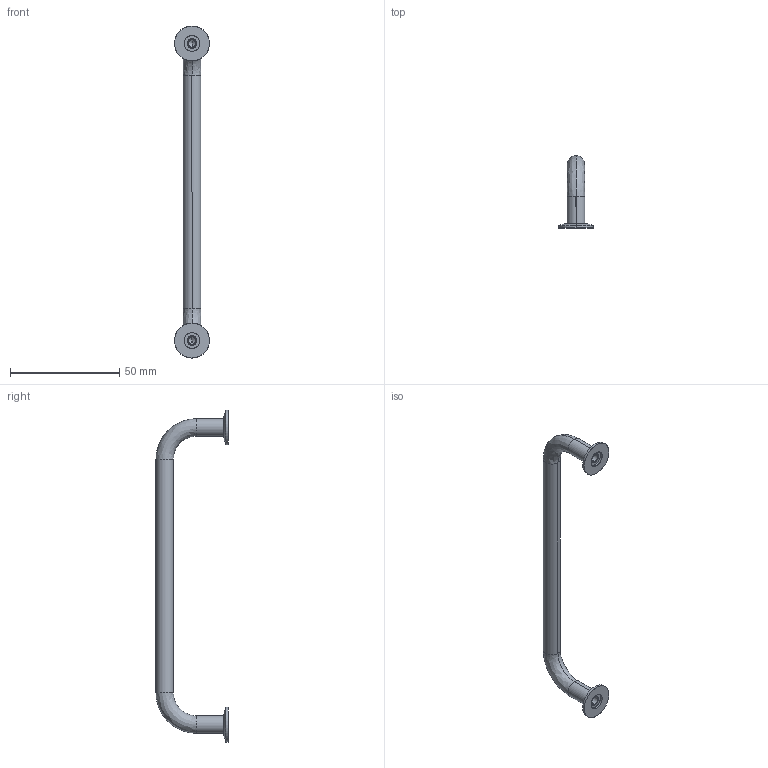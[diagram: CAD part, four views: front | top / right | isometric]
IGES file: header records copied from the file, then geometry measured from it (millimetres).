
Start section: SolidWorks IGES file using analytic representation for surfaces
Global section: file name: C:\Documents and Settings\IANO\Desktop\Temp File\Process pending\PCN pending\78700_v2\78700_v2_20170116_IGES\78700.W0114.igs; native system: SolidWorks 2009; preprocessor: SolidWorks 2009; author: IANO; date: 170310.095740; units: millimetre
Bounding box: 16 x 33 x 152 mm (x, y, z)
Surface area: 5651.2 mm2 (no closed solid volume)
Topology: 0 solids, 0 shells, 52 faces, 808 edges, 804 vertices
Faces by surface type: revolution 38, bspline 14
